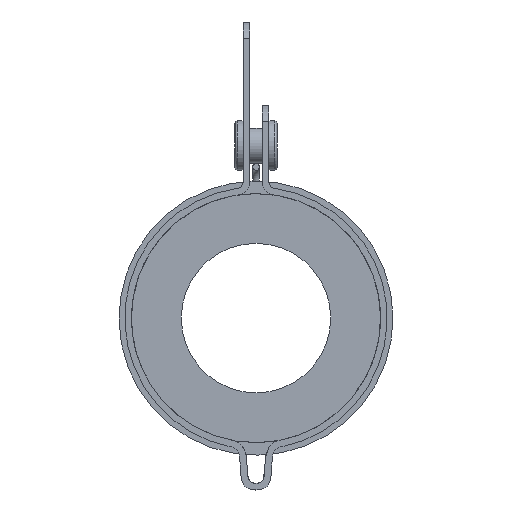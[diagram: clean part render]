
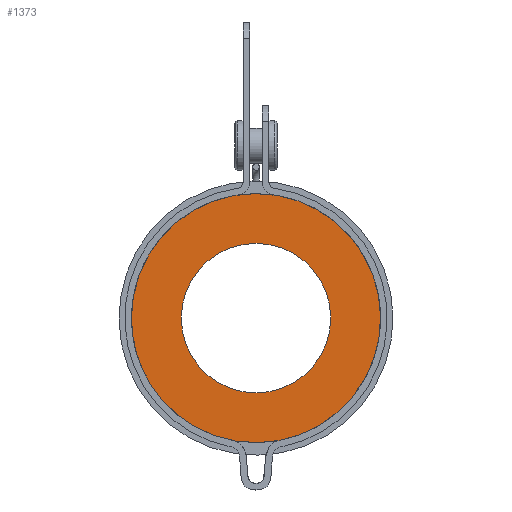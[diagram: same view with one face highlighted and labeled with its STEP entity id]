
A CAD part, front view. The second image highlights one B-rep face of the part: STEP entity #1373.
In plain terms, the highlighted planar face has unit normal (0, -1, 0).
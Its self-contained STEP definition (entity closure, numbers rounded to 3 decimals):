
#194=FACE_BOUND($,#392,.T.);
#195=FACE_BOUND($,#393,.T.);
#392=EDGE_LOOP($,(#950));
#393=EDGE_LOOP($,(#951));
#515=CIRCLE($,#1476,15.);
#526=CIRCLE($,#1489,9.);
#610=VERTEX_POINT($,#2171);
#629=VERTEX_POINT($,#2231);
#742=EDGE_CURVE($,#610,#610,#515,.T.);
#761=EDGE_CURVE($,#629,#629,#526,.T.);
#950=ORIENTED_EDGE($,*,*,#761,.T.);
#951=ORIENTED_EDGE($,*,*,#742,.T.);
#1244=PLANE($,#1491);
#1373=ADVANCED_FACE($,(#194,#195),#1244,.T.);
#1476=AXIS2_PLACEMENT_3D($,#2172,#1678,#1679);
#1489=AXIS2_PLACEMENT_3D($,#2232,#1708,#1709);
#1491=AXIS2_PLACEMENT_3D($,#2234,#1712,#1713);
#1678=DIRECTION('center_axis',(0.,-1.,0.));
#1679=DIRECTION('ref_axis',(1.,0.,0.));
#1708=DIRECTION('center_axis',(0.,1.,0.));
#1709=DIRECTION('ref_axis',(1.,0.,0.));
#1712=DIRECTION('center_axis',(0.,-1.,0.));
#1713=DIRECTION('ref_axis',(0.,0.,-1.));
#2171=CARTESIAN_POINT('',(6.645,46.577,19.693));
#2172=CARTESIAN_POINT('Origin',(21.645,46.577,19.693));
#2231=CARTESIAN_POINT('',(12.645,46.577,19.693));
#2232=CARTESIAN_POINT('Origin',(21.645,46.577,19.693));
#2234=CARTESIAN_POINT('Origin',(21.645,46.577,19.693));
